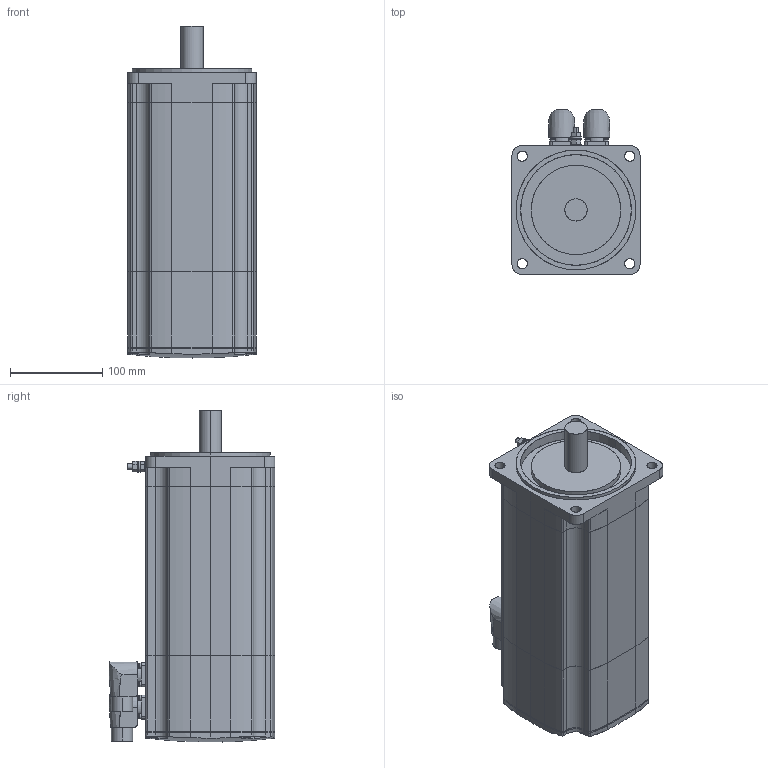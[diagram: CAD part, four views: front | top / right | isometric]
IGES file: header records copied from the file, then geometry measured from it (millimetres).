
Start section: SolidWorks IGES file using analytic representation for surfaces
Global section: file name: C:\PDM\SW-SAP\AA-IGES\SH31402x0xF2100.IGS; native system: SolidWorks 2010; preprocessor: SolidWorks 2010; author: SESA21951; date: 131129.112357; units: millimetre
Bounding box: 140 x 179.9 x 360.35 mm (x, y, z)
Surface area: 363726.3 mm2 (no closed solid volume)
Topology: 0 solids, 0 shells, 478 faces, 7082 edges, 7082 vertices
Faces by surface type: revolution 257, bspline 221
